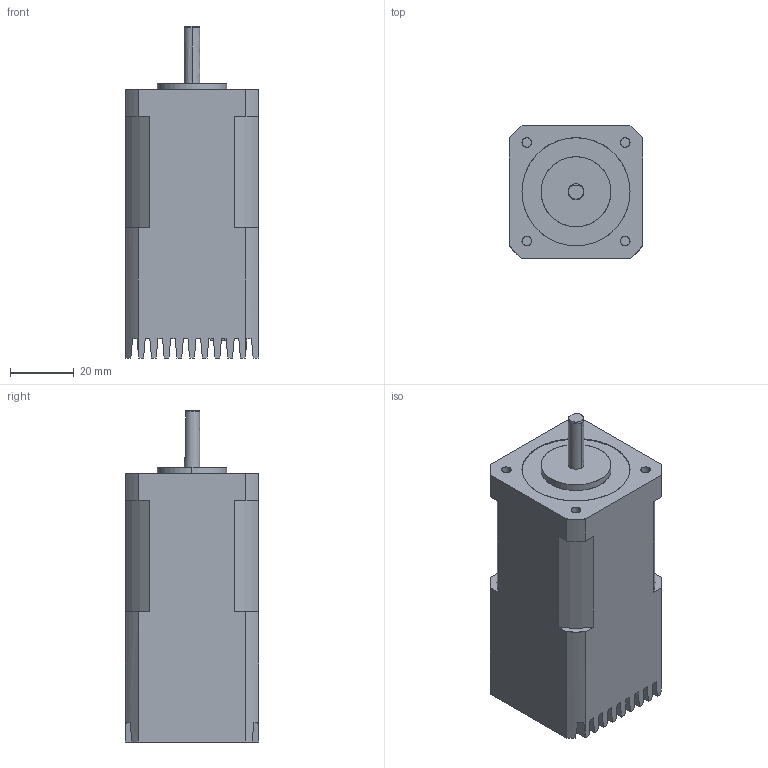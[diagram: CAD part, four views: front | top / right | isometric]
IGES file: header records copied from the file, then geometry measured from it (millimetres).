
Start section: SolidWorks IGES file using analytic representation for surfaces
Global section: file name: \\Swds01\kari\6263\SSA-TR,TX\SSA-TR-42D4_.IGS; native system: SolidWorks 2006 by SolidWorks Corporation; preprocessor: SolidWorks 2006 by SolidWorks Corporation; author: 3dcad; date: 091130.144522; units: millimetre
Bounding box: 42 x 42 x 104.5 mm (x, y, z)
Surface area: 21012.8 mm2 (no closed solid volume)
Topology: 0 solids, 0 shells, 121 faces, 1205 edges, 1205 vertices
Faces by surface type: bspline 90, revolution 31
